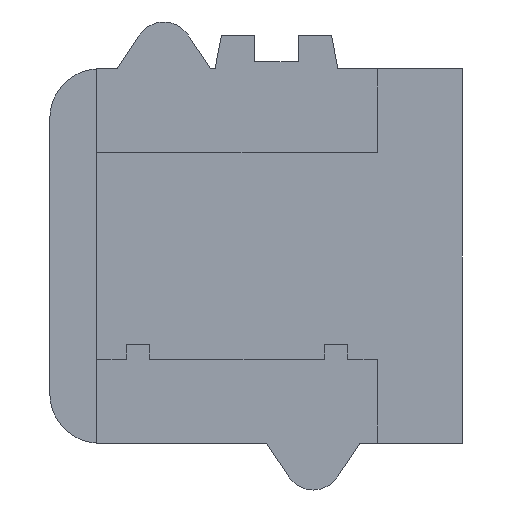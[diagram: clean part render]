
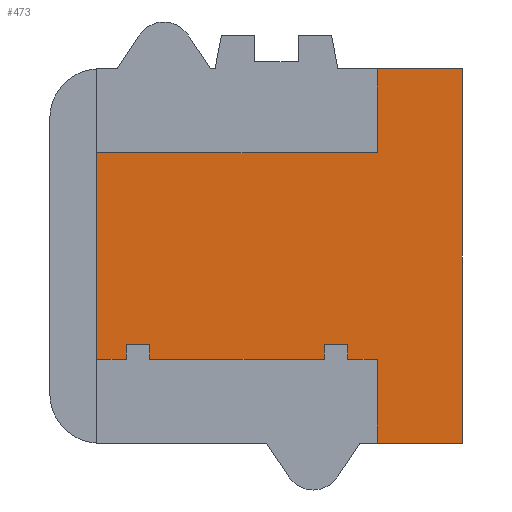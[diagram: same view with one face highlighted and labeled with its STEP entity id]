
A CAD part, front view. The second image highlights one B-rep face of the part: STEP entity #473.
In plain terms, the highlighted planar face has unit normal (0, -1, 0).
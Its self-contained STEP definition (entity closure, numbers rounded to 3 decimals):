
#170 = CARTESIAN_POINT ( 'NONE',  ( 24., 4., 17.65 ) ) ;
#196 = EDGE_CURVE ( 'NONE', #4235, #4618, #8595, .T. ) ;
#473 = ADVANCED_FACE ( 'NONE', ( #7360 ), #10820, .F. ) ;
#496 = DIRECTION ( 'NONE',  ( 0., 0., -1. ) ) ;
#759 = DIRECTION ( 'NONE',  ( 1., 0., 0. ) ) ;
#792 = VERTEX_POINT ( 'NONE', #4807 ) ;
#1474 = CARTESIAN_POINT ( 'NONE',  ( 24., 4., -32. ) ) ;
#2144 = ORIENTED_EDGE ( 'NONE', *, *, #4020, .F. ) ;
#2375 = DIRECTION ( 'NONE',  ( 0., 0., -1. ) ) ;
#2442 = CARTESIAN_POINT ( 'NONE',  ( 38.5, 4., -32. ) ) ;
#2551 = ORIENTED_EDGE ( 'NONE', *, *, #196, .T. ) ;
#3166 = CARTESIAN_POINT ( 'NONE',  ( 38.5, 4., 32. ) ) ;
#3385 = CARTESIAN_POINT ( 'NONE',  ( 0., 4., 0. ) ) ;
#3405 = DIRECTION ( 'NONE',  ( -1., 0., 0. ) ) ;
#3539 = VECTOR ( 'NONE', #496, 1000. ) ;
#3586 = CARTESIAN_POINT ( 'NONE',  ( 0., 4., 17.65 ) ) ;
#3960 = VERTEX_POINT ( 'NONE', #170 ) ;
#4020 = EDGE_CURVE ( 'NONE', #4235, #9647, #11040, .T. ) ;
#4072 = CARTESIAN_POINT ( 'NONE',  ( 0., 4., -17.65 ) ) ;
#4112 = DIRECTION ( 'NONE',  ( -1., 0., 0. ) ) ;
#4235 = VERTEX_POINT ( 'NONE', #9472 ) ;
#4618 = VERTEX_POINT ( 'NONE', #1474 ) ;
#4807 = CARTESIAN_POINT ( 'NONE',  ( 38.5, 4., -32. ) ) ;
#4840 = EDGE_CURVE ( 'NONE', #9174, #792, #10080, .T. ) ;
#5048 = CARTESIAN_POINT ( 'NONE',  ( -24., 4., -32. ) ) ;
#5296 = ORIENTED_EDGE ( 'NONE', *, *, #6819, .T. ) ;
#5298 = EDGE_CURVE ( 'NONE', #9174, #7285, #10857, .T. ) ;
#5460 = EDGE_CURVE ( 'NONE', #10055, #3960, #10427, .T. ) ;
#5565 = AXIS2_PLACEMENT_3D ( 'NONE', #3385, #11757, #6162 ) ;
#5607 = VECTOR ( 'NONE', #11747, 1000. ) ;
#5762 = LINE ( 'NONE', #10773, #5607 ) ;
#5840 = EDGE_CURVE ( 'NONE', #10055, #9647, #9226, .T. ) ;
#6162 = DIRECTION ( 'NONE',  ( 0., 0., 1. ) ) ;
#6220 = EDGE_CURVE ( 'NONE', #792, #4618, #7622, .T. ) ;
#6819 = EDGE_CURVE ( 'NONE', #7285, #3960, #5762, .T. ) ;
#7010 = CARTESIAN_POINT ( 'NONE',  ( 38.5, 4., -32. ) ) ;
#7041 = ORIENTED_EDGE ( 'NONE', *, *, #4840, .F. ) ;
#7285 = VERTEX_POINT ( 'NONE', #8700 ) ;
#7360 = FACE_OUTER_BOUND ( 'NONE', #11709, .T. ) ;
#7521 = VECTOR ( 'NONE', #3405, 1000. ) ;
#7622 = LINE ( 'NONE', #2442, #7521 ) ;
#8033 = ORIENTED_EDGE ( 'NONE', *, *, #5460, .F. ) ;
#8545 = VECTOR ( 'NONE', #2375, 1000. ) ;
#8595 = LINE ( 'NONE', #11663, #8545 ) ;
#8700 = CARTESIAN_POINT ( 'NONE',  ( 24., 4., 32. ) ) ;
#9174 = VERTEX_POINT ( 'NONE', #11149 ) ;
#9226 = LINE ( 'NONE', #5048, #9242 ) ;
#9242 = VECTOR ( 'NONE', #10611, 1000. ) ;
#9310 = ORIENTED_EDGE ( 'NONE', *, *, #5298, .T. ) ;
#9472 = CARTESIAN_POINT ( 'NONE',  ( 24., 4., -17.65 ) ) ;
#9647 = VERTEX_POINT ( 'NONE', #11903 ) ;
#10055 = VERTEX_POINT ( 'NONE', #11098 ) ;
#10080 = LINE ( 'NONE', #7010, #3539 ) ;
#10307 = VECTOR ( 'NONE', #759, 1000. ) ;
#10427 = LINE ( 'NONE', #3586, #10307 ) ;
#10431 = ORIENTED_EDGE ( 'NONE', *, *, #6220, .F. ) ;
#10611 = DIRECTION ( 'NONE',  ( 0., 0., -1. ) ) ;
#10689 = ORIENTED_EDGE ( 'NONE', *, *, #5840, .T. ) ;
#10758 = VECTOR ( 'NONE', #10806, 1000. ) ;
#10773 = CARTESIAN_POINT ( 'NONE',  ( 24., 4., -32. ) ) ;
#10806 = DIRECTION ( 'NONE',  ( -1., 0., 0. ) ) ;
#10820 = PLANE ( 'NONE',  #5565 ) ;
#10857 = LINE ( 'NONE', #3166, #10899 ) ;
#10899 = VECTOR ( 'NONE', #4112, 1000. ) ;
#11040 = LINE ( 'NONE', #4072, #10758 ) ;
#11098 = CARTESIAN_POINT ( 'NONE',  ( -24., 4., 17.65 ) ) ;
#11149 = CARTESIAN_POINT ( 'NONE',  ( 38.5, 4., 32. ) ) ;
#11663 = CARTESIAN_POINT ( 'NONE',  ( 24., 4., -32. ) ) ;
#11709 = EDGE_LOOP ( 'NONE', ( #2144, #2551, #10431, #7041, #9310, #5296, #8033, #10689 ) ) ;
#11747 = DIRECTION ( 'NONE',  ( 0., 0., -1. ) ) ;
#11757 = DIRECTION ( 'NONE',  ( 0., 1., 0. ) ) ;
#11903 = CARTESIAN_POINT ( 'NONE',  ( -24., 4., -17.65 ) ) ;
